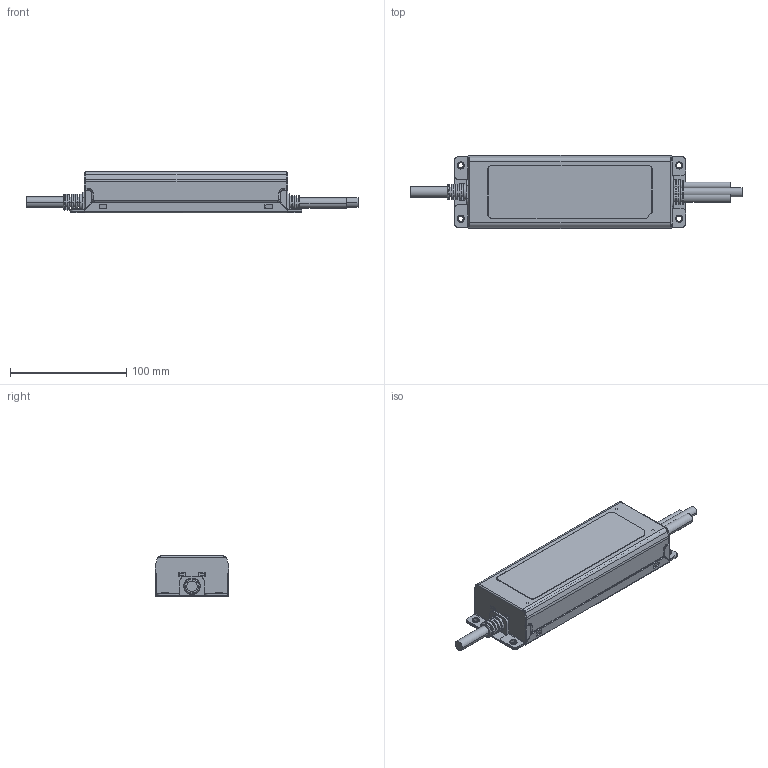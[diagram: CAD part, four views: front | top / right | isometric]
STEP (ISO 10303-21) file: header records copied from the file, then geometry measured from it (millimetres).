
FILE_DESCRIPTION((''),'2;1');
FILE_NAME('XLG-200_ASM','2019-04-26T22:41:00',('shalinice'),(''),'CREO PARAMETRIC BY PTC INC, 2016390','CREO PARAMETRIC BY PTC INC, 2016390','');
FILE_SCHEMA(('AUTOMOTIVE_DESIGN { 1 0 10303 214 1 1 1 1 }'));
Length unit declared in the file: millimetre
Products named in the file (8): 244C-D_; 244A-T_; VRZHU_; VRSAI_; IP_1_1_; OP_1_2_; OP2_; XLG-200_ASM
Assembly tree (7 placements, depth 2):
  XLG-200_ASM
    244C-D_
    244A-T_
    VRZHU_
    VRSAI_
    IP_1_1_
    OP_1_2_
    OP2_
Bounding box: 285.7 x 63.13 x 35.5 mm (x, y, z)
Volume: 71901.7 mm3; surface area: 101249.7 mm2
Topology: 7 solids, 7 shells, 1034 faces, 2710 edges, 1748 vertices
Faces by surface type: plane 602, cylinder 309, torus 75, cone 24, bspline 20, sphere 4
Entity records: 42973 total; most frequent: CARTESIAN_POINT 7372, DIRECTION 5468, ORIENTED_EDGE 5412, PRESENTATION_STYLE_ASSIGNMENT 2862, STYLED_ITEM 2713, CURVE_STYLE 2706, EDGE_CURVE 2706, AXIS2_PLACEMENT_3D 1857
